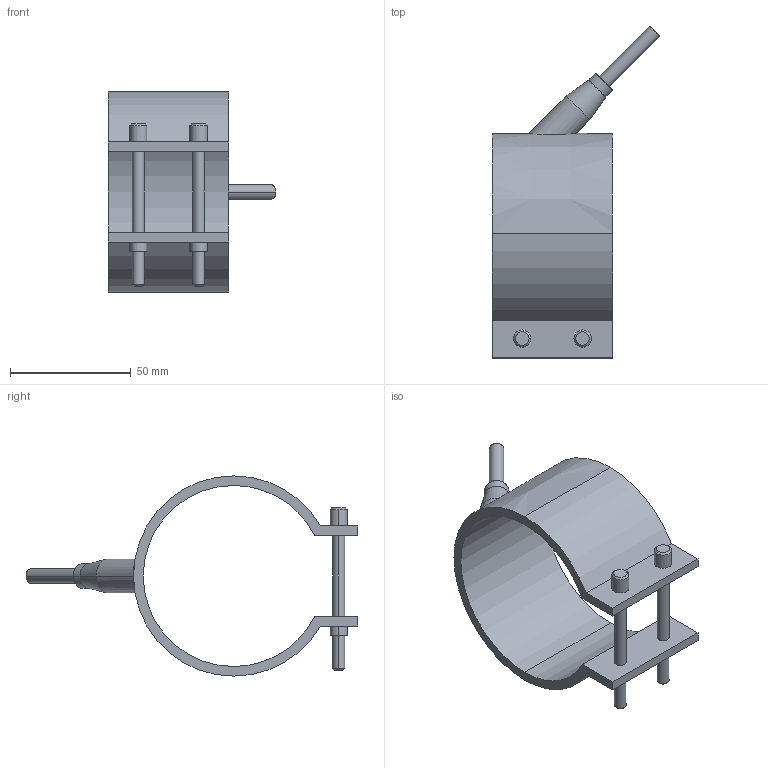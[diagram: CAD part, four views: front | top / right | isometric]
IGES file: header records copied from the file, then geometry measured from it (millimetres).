
Start section: START RECORD GO HERE.
Global section: file name: 29075050.igs; native system: DASSAULT SYSTEMES CATIA V5 R20 - www.3ds.com; preprocessor: CATIA Version 5 Release 20 ; author: Utente; organization: NB04-ASUS; date: 20210329.201400; units: millimetre
Bounding box: 69.55 x 137.55 x 83 mm (x, y, z)
Surface area: 30163.9 mm2 (no closed solid volume)
Topology: 0 solids, 0 shells, 54 faces, 250 edges, 250 vertices
Faces by surface type: revolution 38, plane 16
